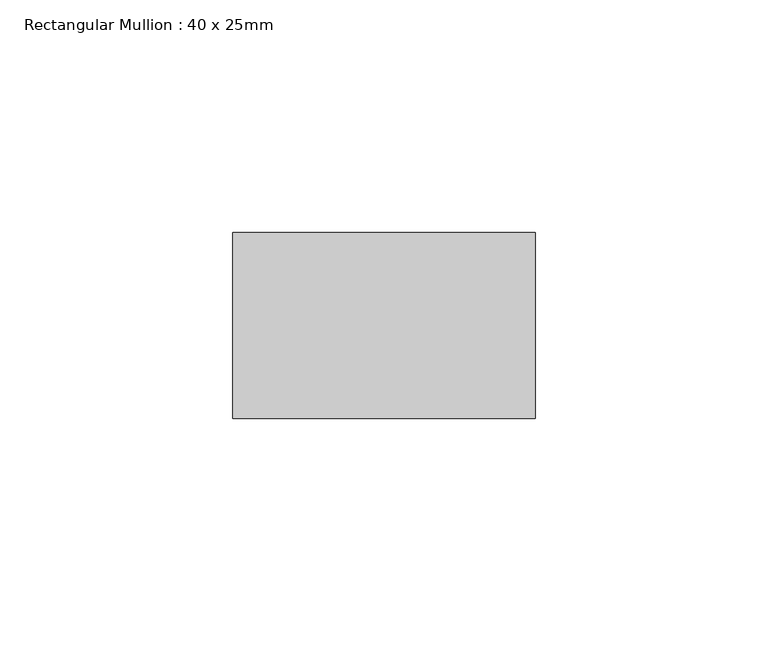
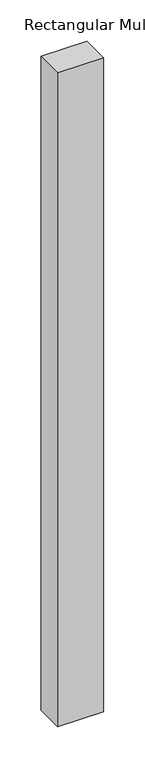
"""IFC4 building model written with IfcOpenShell, lengths in millimetres: member geometry, Rectangular Mullion : 40 x 25mm."""

from ifc_helpers import new_model, si_unit, frame, origin, place, context, project, spatial, polyline, outline, extrude, source, transform, mapped, element, save


def rectangular_mullion_40_x_25mm_7e5c127d(model_context):
    return source(origin(), model_context, "Body", "SweptSolid", [
        extrude(outline(polyline([(40.0, -20.0), (40.0, -60.0), (-25.0, -60.0), (-25.0, -20.0), (40.0, -20.0)])), frame((0.0, 0.0, -970.0), z_axis=(0.0, 0.0, 1.0), x_axis=(1.0, 0.0, 0.0)), (0.0, 0.0, 1.0), 970.0),
    ])


if __name__ == "__main__":
    model = new_model("IFC4")
    model_context = context("Model", 3, world=origin())
    ifc_project = project(units=[si_unit("LENGTHUNIT", "METRE", prefix="MILLI")], contexts=[model_context])
    site = spatial("IfcSite", under=ifc_project)
    building = spatial("IfcBuilding", under=site)
    placement = place(None, origin())
    rectangular_mullion_40_x_25mm_shape = rectangular_mullion_40_x_25mm_7e5c127d(model_context)
    element("IfcMember", 1, ObjectType="Rectangular Mullion : 40 x 25mm", at=placement, inside=building, context=model_context, shape_type="MappedRepresentation", body=[
        mapped(rectangular_mullion_40_x_25mm_shape, transform((0.0, 0.0, 0.0), x_axis=(1.0, 0.0, 0.0), y_axis=(0.0, 1.0, 0.0), z_axis=(0.0, 0.0, 1.0))),
    ])
    save(model, "model.ifc")
